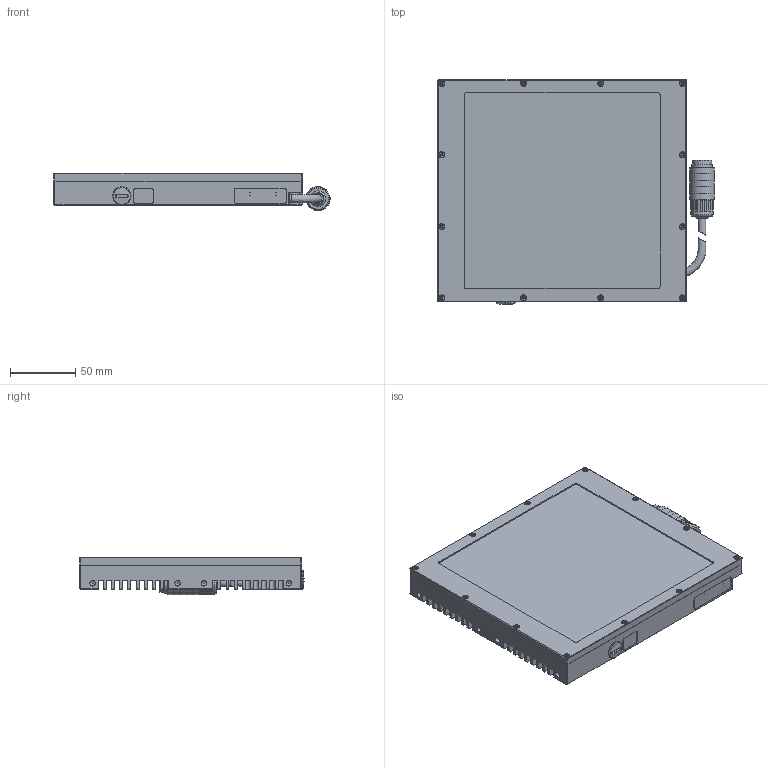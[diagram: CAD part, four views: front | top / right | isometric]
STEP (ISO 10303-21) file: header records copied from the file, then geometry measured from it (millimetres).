
FILE_DESCRIPTION(/* description */ (''),/* implementation_level */ '2;1');
FILE_NAME(/* name */ 'LG1515-BK-V02_MO',/* time_stamp */ '2022-01-19T14:33:56+01:00',/* author */ (''),/* organization */ ('iiM AG'),/* preprocessor_version */ 'ST-DEVELOPER v16.7',/* originating_system */ 'DEX',/* authorisation */ $);
FILE_SCHEMA (('CONFIG_CONTROL_DESIGN'));
Length unit declared in the file: millimetre
Products named in the file (1): LG1515-BK-V02_MO
Bounding box: 211.29 x 171.95 x 28.79 mm (x, y, z)
Volume: 381175.4 mm3; surface area: 213854.2 mm2
Topology: 3 solids, 15 shells, 1087 faces, 2929 edges, 1888 vertices
Faces by surface type: plane 450, cylinder 415, cone 176, bspline 18, torus 15, sphere 13
Full cylindrical faces by diameter (mm): 1 x12, 1.567 x24, 2 x12, 2.1 x8, 2.11 x4, 2.459 x4, 3.8 x12, 4.134 x38, 5.2 x1, 6 x2, 6.2 x1, 8 x1, 9 x1, 11 x3, 11.89 x1, 14 x1, 15 x1, 16 x1, 17.5 x1, 18.5 x3, 18.6 x2
Entity records: 44844 total; most frequent: CARTESIAN_POINT 12606, ORIENTED_EDGE 4930, DIRECTION 4873, EDGE_CURVE 2465, AXIS2_PLACEMENT_3D 1859, VERTEX_POINT 1732, FACE_BOUND 1443, EDGE_LOOP 1400
